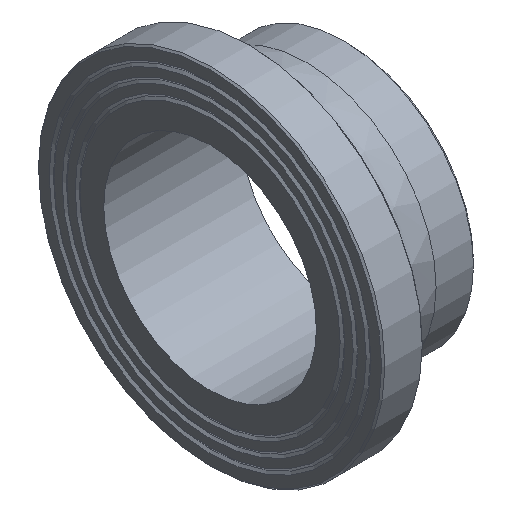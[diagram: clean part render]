
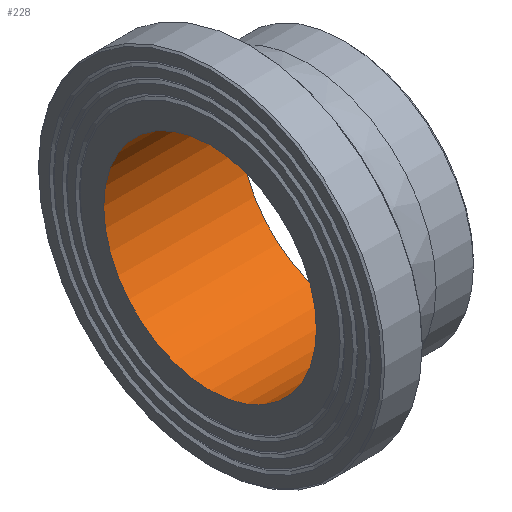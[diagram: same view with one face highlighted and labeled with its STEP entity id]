
A CAD part, isometric view. The second image highlights one B-rep face of the part: STEP entity #228.
In plain terms, the highlighted cylindrical face has radius 65.4 mm (diameter 130.8 mm), a full revolution.
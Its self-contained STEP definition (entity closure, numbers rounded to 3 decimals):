
#33=CYLINDRICAL_SURFACE('',#274,65.4);
#50=ORIENTED_EDGE('',*,*,#79,.F.);
#51=ORIENTED_EDGE('',*,*,#76,.T.);
#76=EDGE_CURVE('',#96,#96,#116,.T.);
#79=EDGE_CURVE('',#99,#99,#119,.T.);
#96=VERTEX_POINT('',#383);
#99=VERTEX_POINT('',#390);
#116=CIRCLE('',#257,65.4);
#119=CIRCLE('',#261,65.4);
#150=EDGE_LOOP('',(#50));
#151=EDGE_LOOP('',(#51));
#190=FACE_BOUND('',#150,.T.);
#191=FACE_BOUND('',#151,.T.);
#228=ADVANCED_FACE('',(#190,#191),#33,.F.);
#257=AXIS2_PLACEMENT_3D('',#382,#303,#304);
#261=AXIS2_PLACEMENT_3D('',#389,#311,#312);
#274=AXIS2_PLACEMENT_3D('',#410,#337,#338);
#303=DIRECTION('',(-1.,0.,0.));
#304=DIRECTION('',(0.,0.,1.));
#311=DIRECTION('',(-1.,0.,0.));
#312=DIRECTION('',(0.,0.,1.));
#337=DIRECTION('',(-1.,0.,0.));
#338=DIRECTION('',(0.,0.,1.));
#382=CARTESIAN_POINT('',(0.,0.,0.));
#383=CARTESIAN_POINT('',(0.,0.,65.4));
#389=CARTESIAN_POINT('',(84.,0.,0.));
#390=CARTESIAN_POINT('',(84.,0.,65.4));
#410=CARTESIAN_POINT('',(60.,0.,0.));
